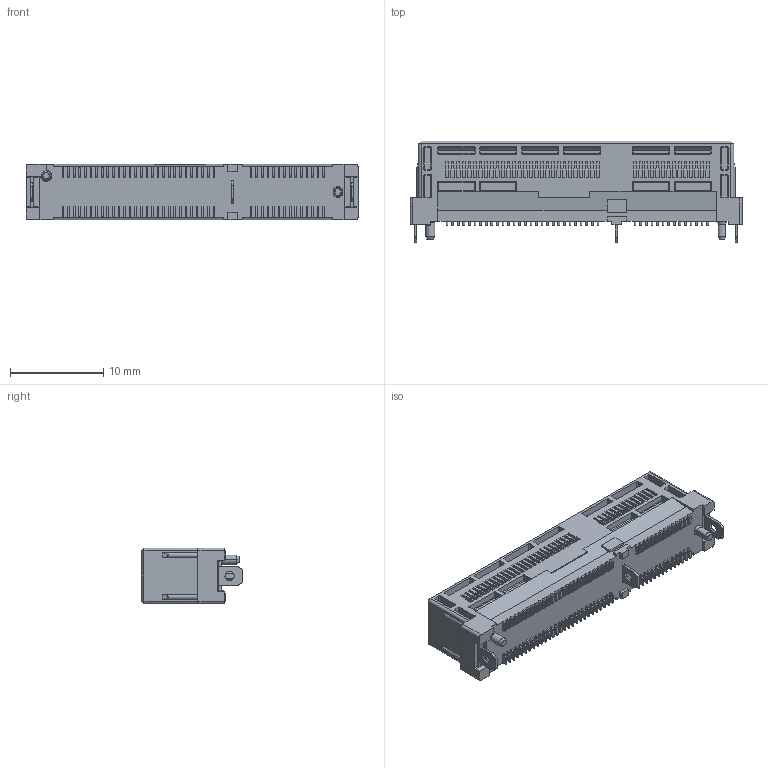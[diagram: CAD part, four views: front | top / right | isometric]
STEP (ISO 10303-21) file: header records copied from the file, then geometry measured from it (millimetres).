
FILE_DESCRIPTION((''),'2;1');
FILE_NAME('PRT0001','2026-07-11T10:57:47',('39001713'),(''),'CREO PARAMETRIC BY PTC INC, 2022244','CREO PARAMETRIC BY PTC INC, 2022244','');
FILE_SCHEMA(('CONFIG_CONTROL_DESIGN'));
Products named in the file (1): PRT0001
Bounding box: 35.67 x 10.92 x 6 mm (x, y, z)
Volume: 1262.4 mm3; surface area: 2556.2 mm2
Topology: 1 solids, 1 shells, 2708 faces, 7052 edges, 4398 vertices
Faces by surface type: plane 1887, cylinder 666, sphere 140, bspline 8, cone 7
Entity records: 81133 total; most frequent: CARTESIAN_POINT 14474, ORIENTED_EDGE 13824, DIRECTION 13768, EDGE_CURVE 6912, VECTOR 5350, LINE 5350, VERTEX_POINT 4398, AXIS2_PLACEMENT_3D 4209
